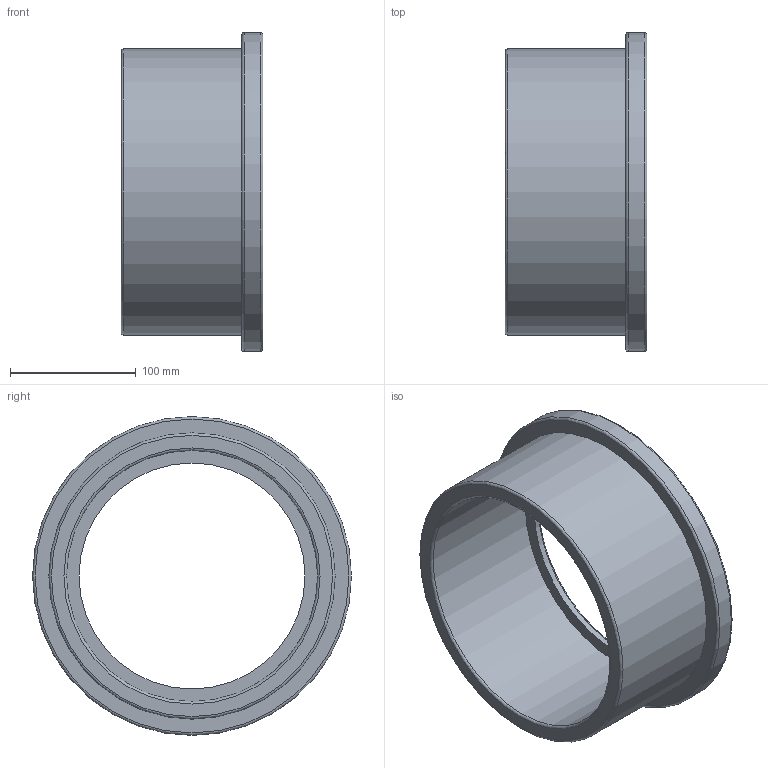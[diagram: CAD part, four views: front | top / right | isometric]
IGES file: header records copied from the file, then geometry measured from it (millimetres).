
Global section: file name: 055100200.ipt; native system: Autodesk Inventor 2015; preprocessor: unknown; author: KIM; date: 20180927.115438; units: millimetre
Bounding box: 113 x 254 x 254 mm (x, y, z)
Volume: 1269680.3 mm3; surface area: 200325.1 mm2
Topology: 1 solids, 1 shells, 13 faces, 36 edges, 27 vertices
Faces by surface type: revolution 7, plane 4, cylinder 2
Full cylindrical faces by diameter (mm): 228 x1, 254 x1
